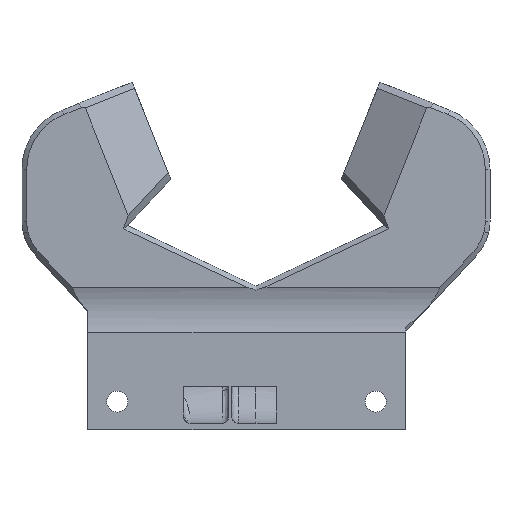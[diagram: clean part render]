
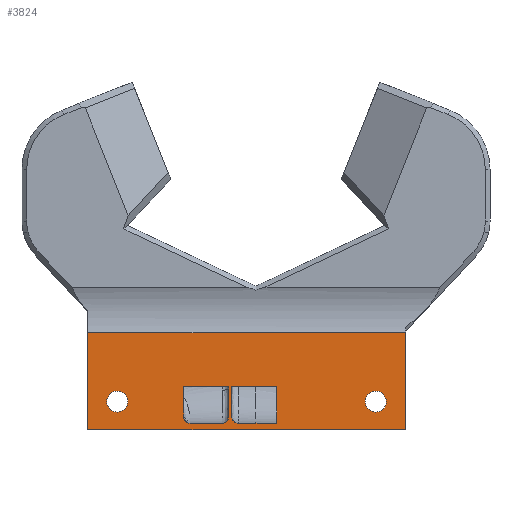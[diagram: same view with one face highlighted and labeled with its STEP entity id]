
A CAD part, left-side view. The second image highlights one B-rep face of the part: STEP entity #3824.
In plain terms, the highlighted planar face has unit normal (-1, 0, 0).
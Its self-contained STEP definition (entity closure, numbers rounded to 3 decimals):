
#28=FACE_BOUND('',#569,.T.);
#29=FACE_BOUND('',#570,.T.);
#30=FACE_BOUND('',#571,.T.);
#31=FACE_BOUND('',#572,.T.);
#219=CIRCLE('',#4080,1.);
#220=CIRCLE('',#4081,1.);
#221=CIRCLE('',#4082,1.);
#222=CIRCLE('',#4083,1.65);
#223=CIRCLE('',#4084,1.65);
#338=FACE_OUTER_BOUND('',#568,.T.);
#568=EDGE_LOOP('',(#2695,#2696,#2697,#2698));
#569=EDGE_LOOP('',(#2699,#2700,#2701,#2702,#2703,#2704,#2705));
#570=EDGE_LOOP('',(#2706,#2707,#2708,#2709,#2710,#2711,#2712));
#571=EDGE_LOOP('',(#2713));
#572=EDGE_LOOP('',(#2714));
#976=LINE('',#5890,#1299);
#979=LINE('',#5897,#1302);
#984=LINE('',#5911,#1307);
#987=LINE('',#5924,#1310);
#988=LINE('',#5927,#1311);
#989=LINE('',#5929,#1312);
#990=LINE('',#5933,#1313);
#991=LINE('',#5937,#1314);
#992=LINE('',#5938,#1315);
#993=LINE('',#5941,#1316);
#994=LINE('',#5943,#1317);
#995=LINE('',#5947,#1318);
#996=LINE('',#5949,#1319);
#997=LINE('',#5951,#1320);
#998=LINE('',#5952,#1321);
#1299=VECTOR('',#4515,10.);
#1302=VECTOR('',#4520,10.);
#1307=VECTOR('',#4533,10.);
#1310=VECTOR('',#4546,10.);
#1311=VECTOR('',#4547,10.);
#1312=VECTOR('',#4548,10.);
#1313=VECTOR('',#4551,10.);
#1314=VECTOR('',#4554,10.);
#1315=VECTOR('',#4555,10.);
#1316=VECTOR('',#4556,10.);
#1317=VECTOR('',#4557,10.);
#1318=VECTOR('',#4560,10.);
#1319=VECTOR('',#4561,10.);
#1320=VECTOR('',#4562,10.);
#1321=VECTOR('',#4563,10.);
#1642=VERTEX_POINT('',#5882);
#1645=VERTEX_POINT('',#5888);
#1648=VERTEX_POINT('',#5896);
#1653=VERTEX_POINT('',#5910);
#1659=VERTEX_POINT('',#5925);
#1660=VERTEX_POINT('',#5926);
#1661=VERTEX_POINT('',#5928);
#1662=VERTEX_POINT('',#5930);
#1663=VERTEX_POINT('',#5932);
#1664=VERTEX_POINT('',#5934);
#1665=VERTEX_POINT('',#5936);
#1666=VERTEX_POINT('',#5939);
#1667=VERTEX_POINT('',#5940);
#1668=VERTEX_POINT('',#5942);
#1669=VERTEX_POINT('',#5944);
#1670=VERTEX_POINT('',#5946);
#1671=VERTEX_POINT('',#5948);
#1672=VERTEX_POINT('',#5950);
#1673=VERTEX_POINT('',#5953);
#1674=VERTEX_POINT('',#5955);
#2037=EDGE_CURVE('',#1645,#1642,#976,.T.);
#2040=EDGE_CURVE('',#1648,#1642,#979,.T.);
#2047=EDGE_CURVE('',#1648,#1653,#984,.T.);
#2054=EDGE_CURVE('',#1645,#1653,#987,.T.);
#2055=EDGE_CURVE('',#1659,#1660,#988,.T.);
#2056=EDGE_CURVE('',#1661,#1659,#989,.T.);
#2057=EDGE_CURVE('',#1662,#1661,#219,.T.);
#2058=EDGE_CURVE('',#1663,#1662,#990,.T.);
#2059=EDGE_CURVE('',#1664,#1663,#220,.T.);
#2060=EDGE_CURVE('',#1665,#1664,#991,.T.);
#2061=EDGE_CURVE('',#1660,#1665,#992,.T.);
#2062=EDGE_CURVE('',#1666,#1667,#993,.T.);
#2063=EDGE_CURVE('',#1668,#1666,#994,.T.);
#2064=EDGE_CURVE('',#1669,#1668,#221,.T.);
#2065=EDGE_CURVE('',#1670,#1669,#995,.T.);
#2066=EDGE_CURVE('',#1671,#1670,#996,.T.);
#2067=EDGE_CURVE('',#1672,#1671,#997,.T.);
#2068=EDGE_CURVE('',#1667,#1672,#998,.T.);
#2069=EDGE_CURVE('',#1673,#1673,#222,.T.);
#2070=EDGE_CURVE('',#1674,#1674,#223,.T.);
#2695=ORIENTED_EDGE('',*,*,#2037,.F.);
#2696=ORIENTED_EDGE('',*,*,#2054,.T.);
#2697=ORIENTED_EDGE('',*,*,#2047,.F.);
#2698=ORIENTED_EDGE('',*,*,#2040,.T.);
#2699=ORIENTED_EDGE('',*,*,#2055,.F.);
#2700=ORIENTED_EDGE('',*,*,#2056,.F.);
#2701=ORIENTED_EDGE('',*,*,#2057,.F.);
#2702=ORIENTED_EDGE('',*,*,#2058,.F.);
#2703=ORIENTED_EDGE('',*,*,#2059,.F.);
#2704=ORIENTED_EDGE('',*,*,#2060,.F.);
#2705=ORIENTED_EDGE('',*,*,#2061,.F.);
#2706=ORIENTED_EDGE('',*,*,#2062,.F.);
#2707=ORIENTED_EDGE('',*,*,#2063,.F.);
#2708=ORIENTED_EDGE('',*,*,#2064,.F.);
#2709=ORIENTED_EDGE('',*,*,#2065,.F.);
#2710=ORIENTED_EDGE('',*,*,#2066,.F.);
#2711=ORIENTED_EDGE('',*,*,#2067,.F.);
#2712=ORIENTED_EDGE('',*,*,#2068,.F.);
#2713=ORIENTED_EDGE('',*,*,#2069,.F.);
#2714=ORIENTED_EDGE('',*,*,#2070,.F.);
#3708=PLANE('',#4079);
#3824=ADVANCED_FACE('',(#338,#28,#29,#30,#31),#3708,.F.);
#4079=AXIS2_PLACEMENT_3D('',#5923,#4544,#4545);
#4080=AXIS2_PLACEMENT_3D('',#5931,#4549,#4550);
#4081=AXIS2_PLACEMENT_3D('',#5935,#4552,#4553);
#4082=AXIS2_PLACEMENT_3D('',#5945,#4558,#4559);
#4083=AXIS2_PLACEMENT_3D('',#5954,#4564,#4565);
#4084=AXIS2_PLACEMENT_3D('',#5956,#4566,#4567);
#4515=DIRECTION('',(0.,1.,0.));
#4520=DIRECTION('',(0.,0.,-1.));
#4533=DIRECTION('',(0.,-1.,0.));
#4544=DIRECTION('center_axis',(1.,0.,0.));
#4545=DIRECTION('ref_axis',(0.,0.,1.));
#4546=DIRECTION('',(0.,0.,1.));
#4547=DIRECTION('',(0.,0.,1.));
#4548=DIRECTION('',(0.,0.,1.));
#4549=DIRECTION('center_axis',(-1.,0.,0.));
#4550=DIRECTION('ref_axis',(0.,-0.707,-0.707));
#4551=DIRECTION('',(0.,-1.,0.));
#4552=DIRECTION('center_axis',(-1.,0.,0.));
#4553=DIRECTION('ref_axis',(0.,0.707,-0.707));
#4554=DIRECTION('',(0.,0.,-1.));
#4555=DIRECTION('',(0.,1.,0.));
#4556=DIRECTION('',(0.,-1.,0.));
#4557=DIRECTION('',(0.,-1.,0.));
#4558=DIRECTION('center_axis',(-1.,0.,0.));
#4559=DIRECTION('ref_axis',(0.,0.707,-0.707));
#4560=DIRECTION('',(0.,0.,-1.));
#4561=DIRECTION('',(0.,1.,0.));
#4562=DIRECTION('',(0.,1.,0.));
#4563=DIRECTION('',(0.,0.,1.));
#4564=DIRECTION('center_axis',(-1.,0.,0.));
#4565=DIRECTION('ref_axis',(0.,1.,0.));
#4566=DIRECTION('center_axis',(-1.,0.,0.));
#4567=DIRECTION('ref_axis',(0.,1.,0.));
#5882=CARTESIAN_POINT('',(-39.86,135.042,-79.305));
#5888=CARTESIAN_POINT('',(-39.86,85.273,-79.305));
#5890=CARTESIAN_POINT('',(-39.86,97.529,-79.305));
#5896=CARTESIAN_POINT('',(-39.86,135.042,-64.094));
#5897=CARTESIAN_POINT('',(-39.86,135.042,-70.94));
#5910=CARTESIAN_POINT('',(-39.86,85.273,-64.094));
#5911=CARTESIAN_POINT('',(-39.86,69.561,-64.094));
#5923=CARTESIAN_POINT('Origin',(-39.86,95.206,-82.));
#5924=CARTESIAN_POINT('',(-39.86,85.273,-70.94));
#5925=CARTESIAN_POINT('',(-39.86,112.984,-72.781));
#5926=CARTESIAN_POINT('',(-39.86,112.984,-72.531));
#5927=CARTESIAN_POINT('',(-39.86,112.984,-77.391));
#5928=CARTESIAN_POINT('',(-39.86,112.984,-77.306));
#5929=CARTESIAN_POINT('',(-39.86,112.984,-80.153));
#5930=CARTESIAN_POINT('',(-39.86,113.984,-78.306));
#5931=CARTESIAN_POINT('Origin',(-39.86,113.984,-77.306));
#5932=CARTESIAN_POINT('',(-39.86,119.015,-78.306));
#5933=CARTESIAN_POINT('',(-39.86,100.364,-78.306));
#5934=CARTESIAN_POINT('',(-39.86,120.015,-77.337));
#5935=CARTESIAN_POINT('Origin',(-39.86,119.015,-77.306));
#5936=CARTESIAN_POINT('',(-39.86,120.015,-72.531));
#5937=CARTESIAN_POINT('',(-39.86,120.015,-80.153));
#5938=CARTESIAN_POINT('',(-39.86,107.645,-72.531));
#5939=CARTESIAN_POINT('',(-39.86,108.692,-78.306));
#5940=CARTESIAN_POINT('',(-39.86,105.453,-78.306));
#5941=CARTESIAN_POINT('',(-39.86,103.533,-78.306));
#5942=CARTESIAN_POINT('',(-39.86,111.484,-78.306));
#5943=CARTESIAN_POINT('',(-39.86,100.364,-78.306));
#5944=CARTESIAN_POINT('',(-39.86,112.484,-77.306));
#5945=CARTESIAN_POINT('Origin',(-39.86,111.484,-77.306));
#5946=CARTESIAN_POINT('',(-39.86,112.484,-72.531));
#5947=CARTESIAN_POINT('',(-39.86,112.484,-68.517));
#5948=CARTESIAN_POINT('',(-39.86,108.692,-72.531));
#5949=CARTESIAN_POINT('',(-39.86,107.645,-72.531));
#5950=CARTESIAN_POINT('',(-39.86,105.453,-72.531));
#5951=CARTESIAN_POINT('',(-39.86,96.253,-72.531));
#5952=CARTESIAN_POINT('',(-39.86,105.453,-81.149));
#5953=CARTESIAN_POINT('',(-39.86,128.771,-74.915));
#5954=CARTESIAN_POINT('Origin',(-39.86,130.421,-74.915));
#5955=CARTESIAN_POINT('',(-39.86,88.271,-74.915));
#5956=CARTESIAN_POINT('Origin',(-39.86,89.921,-74.915));
